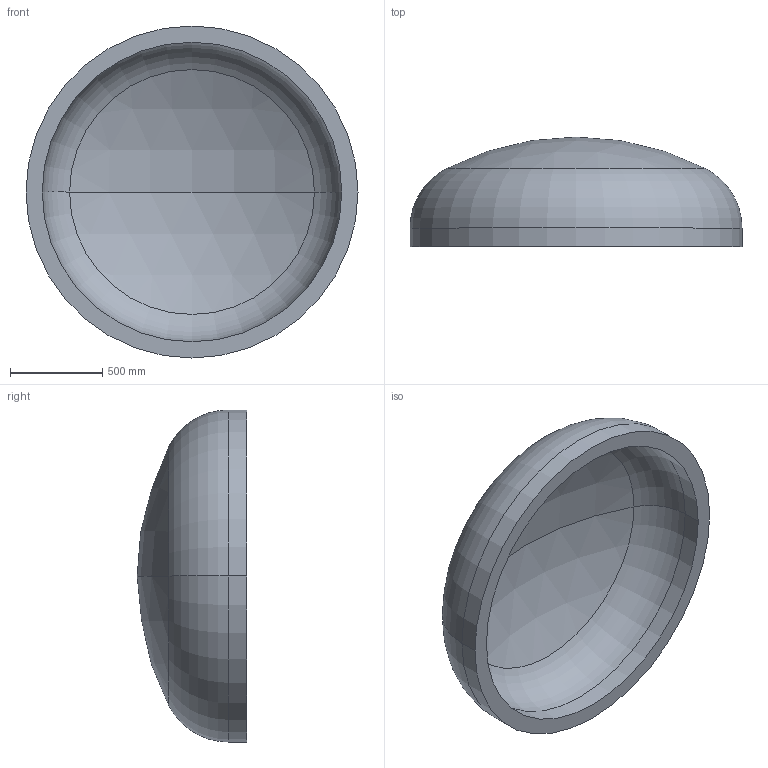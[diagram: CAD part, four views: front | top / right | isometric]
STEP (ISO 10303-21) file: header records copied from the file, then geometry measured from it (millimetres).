
FILE_DESCRIPTION (( 'STEP AP203' ), '1' );
FILE_NAME ('DIN 28013 Korbbogenform_-_Boden DIN 28013 - 1800 x 100 - I - s=88.step', '2016-07-01T12:42:37', ( '' ), ( '' ), 'SwSTEP 2.0', 'SolidWorks 2013', '' );
FILE_SCHEMA (( 'CONFIG_CONTROL_DESIGN' ));
Length unit declared in the file: millimetre
Products named in the file (1): DIN 28013 Korbbogenform_-_Boden DIN 28013 - 1800 x 100 - I - s=88
Bounding box: 1800 x 594.15 x 1800 mm (x, y, z)
Volume: 338098941.8 mm3; surface area: 8173583.6 mm2
Topology: 1 solids, 1 shells, 13 faces, 24 edges, 14 vertices
Faces by surface type: torus 4, cylinder 4, sphere 4, plane 1
Entity records: 407 total; most frequent: DIRECTION 72, CARTESIAN_POINT 52, ORIENTED_EDGE 48, AXIS2_PLACEMENT_3D 34, EDGE_CURVE 24, CIRCLE 20, EDGE_LOOP 14, VERTEX_POINT 14
